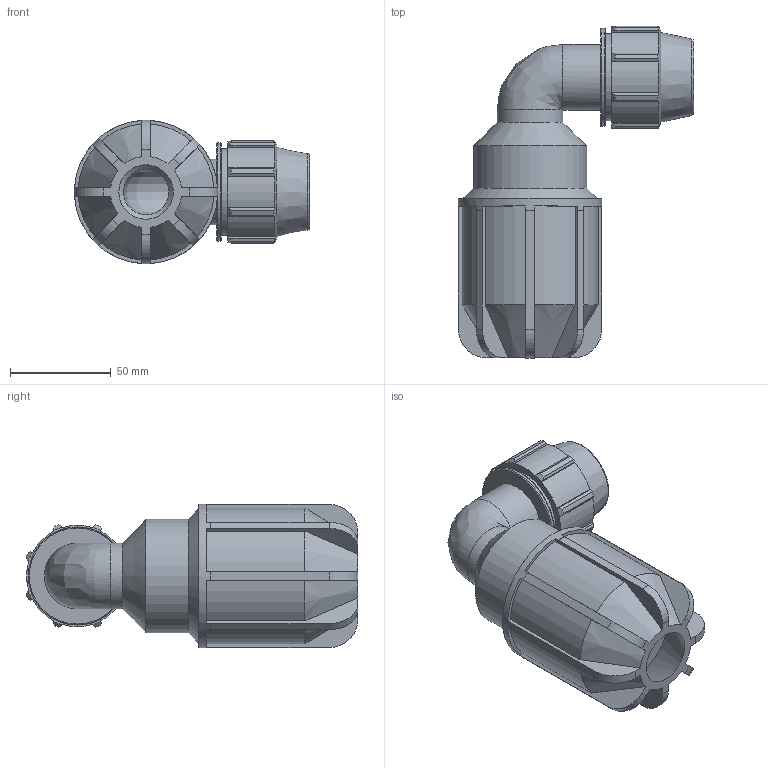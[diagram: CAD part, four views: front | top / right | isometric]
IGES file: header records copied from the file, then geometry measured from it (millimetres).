
Global section: file name: 070570025027_180570025027_0705700250270A.ipt; native system: Autodesk Inventor 2015; preprocessor: unknown; author: KIM; date: 20170606.172136; units: millimetre
Bounding box: 116.5 x 164.41 x 71 mm (x, y, z)
Volume: 237029.2 mm3; surface area: 71169.5 mm2
Topology: 1 solids, 1 shells, 160 faces, 453 edges, 299 vertices
Faces by surface type: plane 88, cylinder 38, cone 20, revolution 13, bspline 1
Full cylindrical faces by diameter (mm): 32.541 x2, 43.2 x1, 48.6 x1, 56.061 x1, 71 x1
